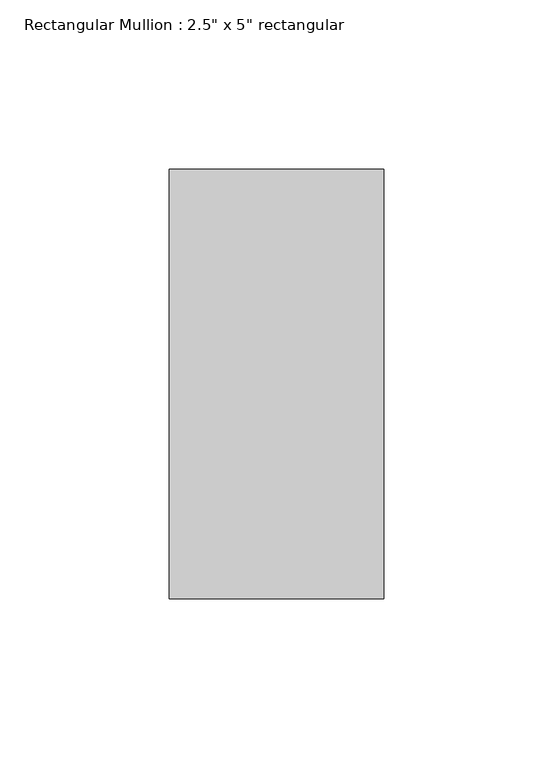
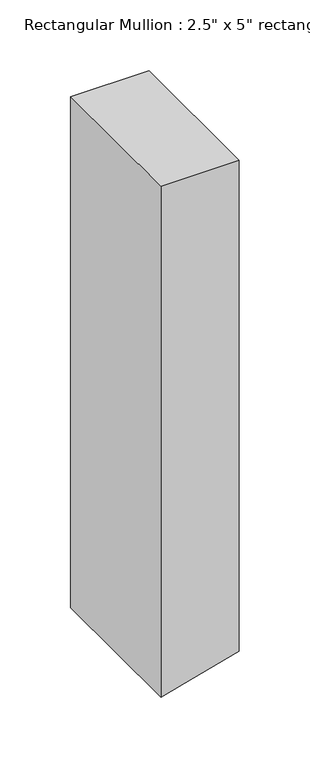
"""IFC4 building model written with IfcOpenShell, lengths in millimetres: member geometry."""

from ifc_helpers import new_model, si_unit, frame, origin, place, context, project, spatial, circle_curve, source, transform, mapped, element, save
from ifc_brep_helpers import plane_surface, cylinder_surface, advanced_brep


def member_058a004c(model_context):
    return source(origin(), model_context, "Body", "AdvancedBrep", [
        advanced_brep(
        [(31.75, 63.5, 0.0), (-31.75, 63.5, 0.0), (-31.75, -63.5, 0.0), (31.75, -63.5, 0.0), (31.75, 63.5, -421.9877937), (-16.3871388, 63.5, -435.1984461), (-31.75, 63.5, -439.266384), (-31.75, -63.5, -439.266384), (-16.3871388, -63.5, -435.1984461), (31.75, -63.5, -421.9877937)],
        [
            (0, 1),
            (1, 2),
            (2, 3),
            (3, 0),
            (0, 4),
            (4, 5, circle_curve(frame((-960.5691072, 63.5, 3099.5300218), z_axis=(0.0, 1.0, 0.0), x_axis=(0.40819565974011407, 0.0, -0.9128944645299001)), 3658.6588985)),
            (5, 6, circle_curve(frame((-960.5691072, 63.5, 3099.5300218), z_axis=(0.0, 1.0, 0.0), x_axis=(0.25806773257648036, 0.0, -0.9661268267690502)), 3658.6588985)),
            (6, 1),
            (6, 7),
            (7, 2),
            (7, 8, circle_curve(frame((-960.5691072, -63.5, 3099.5300218), z_axis=(0.0, -1.0, 0.0), x_axis=(0.25806773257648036, 0.0, -0.9661268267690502)), 3658.6588985)),
            (8, 9, circle_curve(frame((-960.5691072, -63.5, 3099.5300218), z_axis=(0.0, -1.0, 0.0), x_axis=(0.40819565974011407, 0.0, -0.9128944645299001)), 3658.6588985)),
            (9, 3),
            (9, 4),
            (8, 5),
        ],
        [
            plane_surface(frame((0.0, -70.9951583, 0.0), z_axis=(0.0, 0.0, 1.0), x_axis=(-1.0, 0.0, 0.0))),
            plane_surface(frame((31.75, 63.5, 0.0), z_axis=(0.0, 1.0, 0.0), x_axis=(0.0, 0.0, -1.0))),
            plane_surface(frame((-31.75, 63.5, 0.0), z_axis=(-1.0, 0.0, 0.0), x_axis=(0.0, 0.0, -1.0))),
            plane_surface(frame((-31.75, -63.5, 0.0), z_axis=(0.0, -1.0, 0.0), x_axis=(0.0, 0.0, -1.0))),
            plane_surface(frame((31.75, -63.5, 0.0), z_axis=(1.0, 0.0, 0.0), x_axis=(0.0, 0.0, -1.0))),
            cylinder_surface(frame((-960.5691072, 0.0, 3099.5300218), z_axis=(0.0, 1.0, 0.0), x_axis=(0.40819565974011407, 0.0, -0.9128944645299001)), 3658.6588985),
            cylinder_surface(frame((-960.5691072, 0.0, 3099.5300218), z_axis=(0.0, 1.0, 0.0), x_axis=(0.25806773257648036, 0.0, -0.9661268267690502)), 3658.6588985),
        ],
        [
            (0, [[1, 2, 3, 4]]),
            (1, [[-1, 5, 6, 7, 8]]),
            (2, [[-2, -8, 9, 10]]),
            (3, [[-3, -10, 11, 12, 13]]),
            (4, [[-4, -13, 14, -5]]),
            (5, [[-14, -12, 15, -6]]),
            (6, [[-11, -9, -7, -15]]),
        ],
    ),
    ])


if __name__ == "__main__":
    model = new_model("IFC4")
    model_context = context("Model", 3, world=origin())
    ifc_project = project(units=[si_unit("LENGTHUNIT", "METRE", prefix="MILLI")], contexts=[model_context])
    site = spatial("IfcSite", under=ifc_project)
    building = spatial("IfcBuilding", under=site)
    placement = place(None, origin())
    member_shape = member_058a004c(model_context)
    element("IfcMember", 1, ObjectType="Rectangular Mullion : 2.5\" x 5\" rectangular", at=placement, inside=building, context=model_context, shape_type="MappedRepresentation", body=[
        mapped(member_shape, transform((0.0, 0.0, 0.0), x_axis=(1.0, 0.0, 0.0), y_axis=(0.0, 1.0, 0.0), z_axis=(0.0, 0.0, 1.0))),
    ])
    save(model, "model.ifc")
